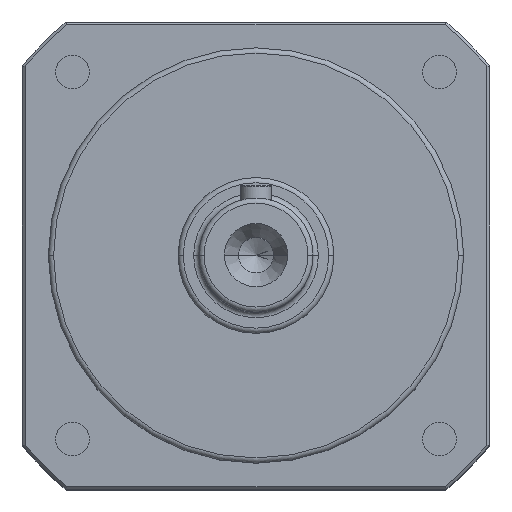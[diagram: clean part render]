
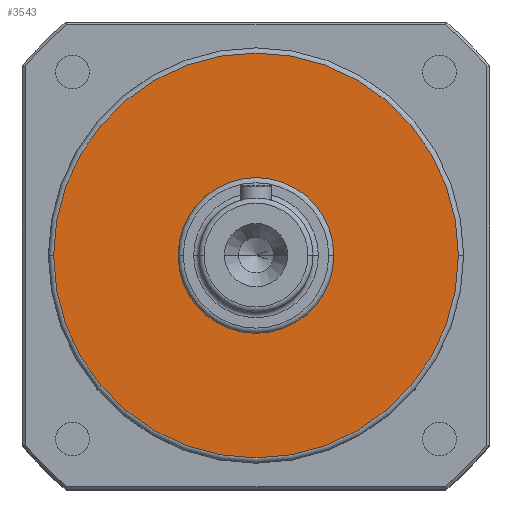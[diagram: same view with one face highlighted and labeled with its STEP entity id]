
A CAD part, top view. The second image highlights one B-rep face of the part: STEP entity #3543.
In plain terms, the highlighted planar face has unit normal (0, 0, 1).
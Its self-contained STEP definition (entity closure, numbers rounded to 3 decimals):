
#11 = CIRCLE ( 'NONE', #4579, 15. ) ;
#106 = VERTEX_POINT ( 'NONE', #2226 ) ;
#167 = AXIS2_PLACEMENT_3D ( 'NONE', #5481, #5532, #5552 ) ;
#177 = VERTEX_POINT ( 'NONE', #2851 ) ;
#819 = ORIENTED_EDGE ( 'NONE', *, *, #1140, .F. ) ;
#1019 = ORIENTED_EDGE ( 'NONE', *, *, #4833, .F. ) ;
#1024 = DIRECTION ( 'NONE',  ( 0., 0., 1. ) ) ;
#1111 = EDGE_CURVE ( 'NONE', #106, #2179, #3218, .T. ) ;
#1140 = EDGE_CURVE ( 'NONE', #2302, #177, #4396, .T. ) ;
#1473 = EDGE_LOOP ( 'NONE', ( #819, #1019 ) ) ;
#1631 = CARTESIAN_POINT ( 'NONE',  ( 0., 0., 10. ) ) ;
#1794 = DIRECTION ( 'NONE',  ( 0., 0., 1. ) ) ;
#2113 = DIRECTION ( 'NONE',  ( 1., 0., 0. ) ) ;
#2176 = CARTESIAN_POINT ( 'NONE',  ( 0., 0., 10. ) ) ;
#2179 = VERTEX_POINT ( 'NONE', #3231 ) ;
#2226 = CARTESIAN_POINT ( 'NONE',  ( 39., 0., 10. ) ) ;
#2302 = VERTEX_POINT ( 'NONE', #5472 ) ;
#2455 = AXIS2_PLACEMENT_3D ( 'NONE', #5789, #1024, #4379 ) ;
#2470 = EDGE_CURVE ( 'NONE', #2179, #106, #4150, .T. ) ;
#2624 = FACE_BOUND ( 'NONE', #1473, .T. ) ;
#2661 = DIRECTION ( 'NONE',  ( 0., 0., 1. ) ) ;
#2851 = CARTESIAN_POINT ( 'NONE',  ( -15., 0., 10. ) ) ;
#3156 = DIRECTION ( 'NONE',  ( 1., 0., 0. ) ) ;
#3218 = CIRCLE ( 'NONE', #6047, 39. ) ;
#3231 = CARTESIAN_POINT ( 'NONE',  ( -39., 0., 10. ) ) ;
#3543 = ADVANCED_FACE ( 'NONE', ( #2624, #6023 ), #3884, .T. ) ;
#3694 = ORIENTED_EDGE ( 'NONE', *, *, #2470, .T. ) ;
#3884 = PLANE ( 'NONE',  #2455 ) ;
#4053 = ORIENTED_EDGE ( 'NONE', *, *, #1111, .T. ) ;
#4150 = CIRCLE ( 'NONE', #5317, 39. ) ;
#4357 = EDGE_LOOP ( 'NONE', ( #4053, #3694 ) ) ;
#4379 = DIRECTION ( 'NONE',  ( 1., 0., 0. ) ) ;
#4396 = CIRCLE ( 'NONE', #167, 15. ) ;
#4579 = AXIS2_PLACEMENT_3D ( 'NONE', #4688, #1794, #5155 ) ;
#4688 = CARTESIAN_POINT ( 'NONE',  ( 0., 0., 10. ) ) ;
#4833 = EDGE_CURVE ( 'NONE', #177, #2302, #11, .T. ) ;
#5002 = DIRECTION ( 'NONE',  ( 0., 0., 1. ) ) ;
#5155 = DIRECTION ( 'NONE',  ( 1., 0., 0. ) ) ;
#5317 = AXIS2_PLACEMENT_3D ( 'NONE', #1631, #5002, #2113 ) ;
#5472 = CARTESIAN_POINT ( 'NONE',  ( 15., 0., 10. ) ) ;
#5481 = CARTESIAN_POINT ( 'NONE',  ( 0., 0., 10. ) ) ;
#5532 = DIRECTION ( 'NONE',  ( 0., 0., 1. ) ) ;
#5552 = DIRECTION ( 'NONE',  ( 1., 0., 0. ) ) ;
#5789 = CARTESIAN_POINT ( 'NONE',  ( 0., 0., 10. ) ) ;
#6023 = FACE_OUTER_BOUND ( 'NONE', #4357, .T. ) ;
#6047 = AXIS2_PLACEMENT_3D ( 'NONE', #2176, #2661, #3156 ) ;
